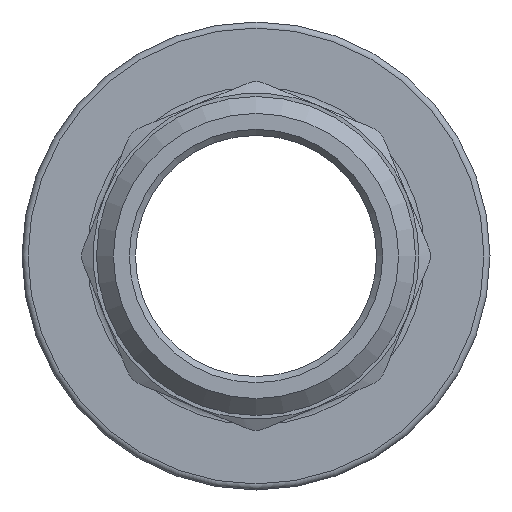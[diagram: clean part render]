
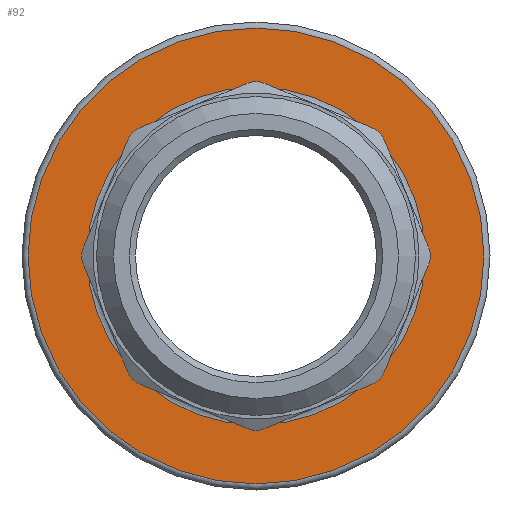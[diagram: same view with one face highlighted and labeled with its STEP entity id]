
A CAD part, front view. The second image highlights one B-rep face of the part: STEP entity #92.
In plain terms, the highlighted planar face has unit normal (0, -1, 0).
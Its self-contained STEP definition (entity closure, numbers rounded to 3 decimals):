
#92=ADVANCED_FACE('',(#504,#506),#508,.F.);
#504=FACE_BOUND('',#505,.T.);
#505=EDGE_LOOP('',(#978));
#506=FACE_BOUND('',#507,.T.);
#507=EDGE_LOOP('',(#979));
#508=PLANE('',#509);
#509=AXIS2_PLACEMENT_3D('',#510,#511,#512);
#510=CARTESIAN_POINT('',(0.,0.,0.));
#511=DIRECTION('',(0.,1.,0.));
#512=DIRECTION('',(-1.,0.,0.));
#978=ORIENTED_EDGE('',*,*,#1136,.F.);
#979=ORIENTED_EDGE('',*,*,#1134,.T.);
#1134=EDGE_CURVE('',#1325,#1325,#1326,.T.);
#1136=EDGE_CURVE('',#1329,#1329,#1330,.T.);
#1325=VERTEX_POINT('',#2692);
#1326=CIRCLE('',#2693,14.);
#1329=VERTEX_POINT('',#2702);
#1330=CIRCLE('',#2703,18.9);
#2692=CARTESIAN_POINT('',(-14.,0.,0.));
#2693=AXIS2_PLACEMENT_3D('',#2694,#2695,#2696);
#2694=CARTESIAN_POINT('',(0.,0.,0.));
#2695=DIRECTION('',(0.,1.,0.));
#2696=DIRECTION('',(-1.,0.,0.));
#2702=CARTESIAN_POINT('',(-18.9,0.,0.));
#2703=AXIS2_PLACEMENT_3D('',#2704,#2705,#2706);
#2704=CARTESIAN_POINT('',(0.,0.,0.));
#2705=DIRECTION('',(0.,1.,0.));
#2706=DIRECTION('',(-1.,0.,0.));
